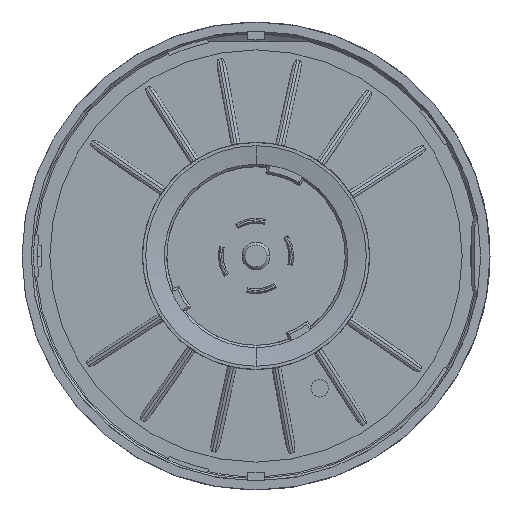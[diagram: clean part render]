
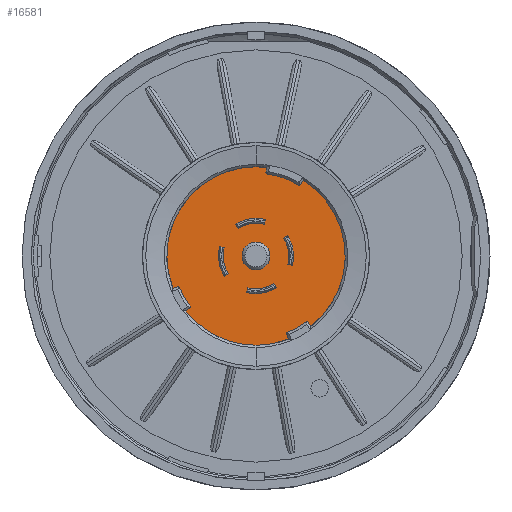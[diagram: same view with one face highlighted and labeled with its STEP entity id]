
A CAD part, top view. The second image highlights one B-rep face of the part: STEP entity #16581.
In plain terms, the highlighted planar face has unit normal (0, 0, 1).
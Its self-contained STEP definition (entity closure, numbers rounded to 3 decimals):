
#3396=CARTESIAN_POINT('',(0.,0.,-7.85));
#3397=DIRECTION('',(0.,0.,-1.));
#3398=DIRECTION('',(0.53,0.848,0.));
#3399=AXIS2_PLACEMENT_3D('',#3396,#3397,#3398);
#3401=CARTESIAN_POINT('',(0.,0.,-7.85));
#3402=DIRECTION('',(0.,0.,-1.));
#3403=DIRECTION('',(0.,-1.,0.));
#3404=AXIS2_PLACEMENT_3D('',#3401,#3402,#3403);
#3406=CARTESIAN_POINT('',(0.,0.,-7.85));
#3407=DIRECTION('',(0.,0.,-1.));
#3408=DIRECTION('',(-0.53,-0.848,0.));
#3409=AXIS2_PLACEMENT_3D('',#3406,#3407,#3408);
#3411=CARTESIAN_POINT('',(0.,0.,-7.85));
#3412=DIRECTION('',(0.,0.,-1.));
#3413=DIRECTION('',(0.,1.,0.));
#3414=AXIS2_PLACEMENT_3D('',#3411,#3412,#3413);
#3416=DIRECTION('',(0.438,0.899,0.));
#3417=VECTOR('',#3416,1.1);
#3418=CARTESIAN_POINT('',(6.181,12.673,-7.85));
#3419=LINE('',#3418,#3417);
#3420=CARTESIAN_POINT('',(0.,0.,-7.85));
#3421=DIRECTION('',(0.,0.,1.));
#3422=DIRECTION('',(0.53,0.848,0.));
#3423=AXIS2_PLACEMENT_3D('',#3420,#3421,#3422);
#3425=DIRECTION('',(-0.53,-0.848,0.));
#3426=VECTOR('',#3425,1.1);
#3427=CARTESIAN_POINT('',(8.055,12.89,-7.85));
#3428=LINE('',#3427,#3426);
#3429=CARTESIAN_POINT('',(0.,0.,-7.85));
#3430=DIRECTION('',(0.,0.,-1.));
#3431=DIRECTION('',(-1.,0.,0.));
#3432=AXIS2_PLACEMENT_3D('',#3429,#3430,#3431);
#3434=CARTESIAN_POINT('',(0.,0.,-7.85));
#3435=DIRECTION('',(0.,0.,-1.));
#3436=DIRECTION('',(1.,0.,0.));
#3437=AXIS2_PLACEMENT_3D('',#3434,#3435,#3436);
#3439=DIRECTION('',(-0.54,0.842,0.));
#3440=VECTOR('',#3439,0.8);
#3441=CARTESIAN_POINT('',(3.458,-5.386,-7.85));
#3442=LINE('',#3441,#3440);
#3443=CARTESIAN_POINT('',(0.,0.,-7.85));
#3444=DIRECTION('',(0.,0.,-1.));
#3445=DIRECTION('',(0.54,-0.842,0.));
#3446=AXIS2_PLACEMENT_3D('',#3443,#3444,#3445);
#3448=DIRECTION('',(-0.25,-0.968,0.));
#3449=VECTOR('',#3448,0.8);
#3450=CARTESIAN_POINT('',(-1.402,-5.422,-7.85));
#3451=LINE('',#3450,#3449);
#3452=CARTESIAN_POINT('',(0.,0.,-7.85));
#3453=DIRECTION('',(0.,0.,1.));
#3454=DIRECTION('',(-0.25,-0.968,0.));
#3455=AXIS2_PLACEMENT_3D('',#3452,#3453,#3454);
#3457=DIRECTION('',(-0.842,-0.54,0.));
#3458=VECTOR('',#3457,0.8);
#3459=CARTESIAN_POINT('',(5.386,3.458,-7.85));
#3460=LINE('',#3459,#3458);
#3461=CARTESIAN_POINT('',(0.,0.,-7.85));
#3462=DIRECTION('',(0.,0.,-1.));
#3463=DIRECTION('',(0.842,0.54,0.));
#3464=AXIS2_PLACEMENT_3D('',#3461,#3462,#3463);
#3466=DIRECTION('',(0.968,-0.25,0.));
#3467=VECTOR('',#3466,0.8);
#3468=CARTESIAN_POINT('',(5.422,-1.402,-7.85));
#3469=LINE('',#3468,#3467);
#3470=CARTESIAN_POINT('',(0.,0.,-7.85));
#3471=DIRECTION('',(0.,0.,1.));
#3472=DIRECTION('',(0.968,-0.25,0.));
#3473=AXIS2_PLACEMENT_3D('',#3470,#3471,#3472);
#3475=DIRECTION('',(0.54,-0.842,0.));
#3476=VECTOR('',#3475,0.8);
#3477=CARTESIAN_POINT('',(-3.458,5.386,-7.85));
#3478=LINE('',#3477,#3476);
#3479=CARTESIAN_POINT('',(0.,0.,-7.85));
#3480=DIRECTION('',(0.,0.,-1.));
#3481=DIRECTION('',(-0.54,0.842,0.));
#3482=AXIS2_PLACEMENT_3D('',#3479,#3480,#3481);
#3484=DIRECTION('',(0.25,0.968,0.));
#3485=VECTOR('',#3484,0.8);
#3486=CARTESIAN_POINT('',(1.402,5.422,-7.85));
#3487=LINE('',#3486,#3485);
#3488=CARTESIAN_POINT('',(0.,0.,-7.85));
#3489=DIRECTION('',(0.,0.,1.));
#3490=DIRECTION('',(0.25,0.968,0.));
#3491=AXIS2_PLACEMENT_3D('',#3488,#3489,#3490);
#3493=DIRECTION('',(0.842,0.54,0.));
#3494=VECTOR('',#3493,0.8);
#3495=CARTESIAN_POINT('',(-5.386,-3.458,-7.85));
#3496=LINE('',#3495,#3494);
#3497=CARTESIAN_POINT('',(0.,0.,-7.85));
#3498=DIRECTION('',(0.,0.,-1.));
#3499=DIRECTION('',(-0.842,-0.54,0.));
#3500=AXIS2_PLACEMENT_3D('',#3497,#3498,#3499);
#3502=DIRECTION('',(-0.968,0.25,0.));
#3503=VECTOR('',#3502,0.8);
#3504=CARTESIAN_POINT('',(-5.422,1.402,-7.85));
#3505=LINE('',#3504,#3503);
#3506=CARTESIAN_POINT('',(0.,0.,-7.85));
#3507=DIRECTION('',(0.,0.,1.));
#3508=DIRECTION('',(-0.968,0.25,0.));
#3509=AXIS2_PLACEMENT_3D('',#3506,#3507,#3508);
#7752=CARTESIAN_POINT('',(0.,15.2,-7.85));
#7753=CARTESIAN_POINT('',(6.663,13.662,-7.85));
#7754=VERTEX_POINT('',#7752);
#7755=VERTEX_POINT('',#7753);
#7838=CARTESIAN_POINT('',(8.055,12.89,-7.85));
#7839=VERTEX_POINT('',#7838);
#7846=CARTESIAN_POINT('',(7.472,11.957,-7.85));
#7847=VERTEX_POINT('',#7846);
#7848=CARTESIAN_POINT('',(6.181,12.673,-7.85));
#7849=VERTEX_POINT('',#7848);
#7850=CARTESIAN_POINT('',(-2.375,0.,-7.85));
#7851=CARTESIAN_POINT('',(2.375,0.,-7.85));
#7852=VERTEX_POINT('',#7850);
#7853=VERTEX_POINT('',#7851);
#8021=CARTESIAN_POINT('',(0.,-15.2,-7.85));
#8022=VERTEX_POINT('',#8021);
#8023=CARTESIAN_POINT('',(-8.055,-12.89,-7.85));
#8024=VERTEX_POINT('',#8023);
#8165=CARTESIAN_POINT('',(3.458,-5.386,-7.85));
#8166=CARTESIAN_POINT('',(3.025,-4.712,-7.85));
#8167=VERTEX_POINT('',#8165);
#8168=VERTEX_POINT('',#8166);
#8169=CARTESIAN_POINT('',(-1.402,-5.422,-7.85));
#8170=VERTEX_POINT('',#8169);
#8171=CARTESIAN_POINT('',(-1.602,-6.196,-7.85));
#8172=VERTEX_POINT('',#8171);
#8173=CARTESIAN_POINT('',(5.386,3.458,-7.85));
#8174=CARTESIAN_POINT('',(4.712,3.025,-7.85));
#8175=VERTEX_POINT('',#8173);
#8176=VERTEX_POINT('',#8174);
#8177=CARTESIAN_POINT('',(5.422,-1.402,-7.85));
#8178=VERTEX_POINT('',#8177);
#8179=CARTESIAN_POINT('',(6.196,-1.602,-7.85));
#8180=VERTEX_POINT('',#8179);
#8181=CARTESIAN_POINT('',(-3.458,5.386,-7.85));
#8182=CARTESIAN_POINT('',(-3.025,4.712,-7.85));
#8183=VERTEX_POINT('',#8181);
#8184=VERTEX_POINT('',#8182);
#8185=CARTESIAN_POINT('',(1.402,5.422,-7.85));
#8186=VERTEX_POINT('',#8185);
#8187=CARTESIAN_POINT('',(1.602,6.196,-7.85));
#8188=VERTEX_POINT('',#8187);
#8189=CARTESIAN_POINT('',(-5.386,-3.458,-7.85));
#8190=CARTESIAN_POINT('',(-4.712,-3.025,-7.85));
#8191=VERTEX_POINT('',#8189);
#8192=VERTEX_POINT('',#8190);
#8193=CARTESIAN_POINT('',(-5.422,1.402,-7.85));
#8194=VERTEX_POINT('',#8193);
#8195=CARTESIAN_POINT('',(-6.196,1.602,-7.85));
#8196=VERTEX_POINT('',#8195);
#16519=CARTESIAN_POINT('',(0.,0.,-7.85));
#16520=DIRECTION('',(0.,0.,1.));
#16521=DIRECTION('',(0.,1.,0.));
#16522=AXIS2_PLACEMENT_3D('',#16519,#16520,#16521);
#16523=PLANE('',#16522);
#16524=ORIENTED_EDGE('',*,*,#15953,.T.);
#16525=ORIENTED_EDGE('',*,*,#15951,.T.);
#16526=ORIENTED_EDGE('',*,*,#15949,.T.);
#16527=ORIENTED_EDGE('',*,*,#15947,.T.);
#16529=ORIENTED_EDGE('',*,*,#16528,.F.);
#16531=ORIENTED_EDGE('',*,*,#16530,.F.);
#16532=ORIENTED_EDGE('',*,*,#16512,.F.);
#16533=EDGE_LOOP('',(#16524,#16525,#16526,#16527,#16529,#16531,#16532));
#16534=FACE_OUTER_BOUND('',#16533,.F.);
#16536=ORIENTED_EDGE('',*,*,#16535,.F.);
#16538=ORIENTED_EDGE('',*,*,#16537,.F.);
#16539=EDGE_LOOP('',(#16536,#16538));
#16540=FACE_BOUND('',#16539,.F.);
#16542=ORIENTED_EDGE('',*,*,#16541,.T.);
#16544=ORIENTED_EDGE('',*,*,#16543,.T.);
#16546=ORIENTED_EDGE('',*,*,#16545,.T.);
#16548=ORIENTED_EDGE('',*,*,#16547,.T.);
#16549=EDGE_LOOP('',(#16542,#16544,#16546,#16548));
#16550=FACE_BOUND('',#16549,.F.);
#16552=ORIENTED_EDGE('',*,*,#16551,.T.);
#16554=ORIENTED_EDGE('',*,*,#16553,.T.);
#16556=ORIENTED_EDGE('',*,*,#16555,.T.);
#16558=ORIENTED_EDGE('',*,*,#16557,.T.);
#16559=EDGE_LOOP('',(#16552,#16554,#16556,#16558));
#16560=FACE_BOUND('',#16559,.F.);
#16562=ORIENTED_EDGE('',*,*,#16561,.T.);
#16564=ORIENTED_EDGE('',*,*,#16563,.T.);
#16566=ORIENTED_EDGE('',*,*,#16565,.T.);
#16568=ORIENTED_EDGE('',*,*,#16567,.T.);
#16569=EDGE_LOOP('',(#16562,#16564,#16566,#16568));
#16570=FACE_BOUND('',#16569,.F.);
#16572=ORIENTED_EDGE('',*,*,#16571,.T.);
#16574=ORIENTED_EDGE('',*,*,#16573,.T.);
#16576=ORIENTED_EDGE('',*,*,#16575,.T.);
#16578=ORIENTED_EDGE('',*,*,#16577,.T.);
#16579=EDGE_LOOP('',(#16572,#16574,#16576,#16578));
#16580=FACE_BOUND('',#16579,.F.);
#3400=CIRCLE('',#3399,15.2);
#3405=CIRCLE('',#3404,15.2);
#3410=CIRCLE('',#3409,15.2);
#3415=CIRCLE('',#3414,15.2);
#3424=CIRCLE('',#3423,14.1);
#3433=CIRCLE('',#3432,2.375);
#3438=CIRCLE('',#3437,2.375);
#3447=CIRCLE('',#3446,5.6);
#3456=CIRCLE('',#3455,6.4);
#3465=CIRCLE('',#3464,5.6);
#3474=CIRCLE('',#3473,6.4);
#3483=CIRCLE('',#3482,5.6);
#3492=CIRCLE('',#3491,6.4);
#3501=CIRCLE('',#3500,5.6);
#3510=CIRCLE('',#3509,6.4);
#15947=EDGE_CURVE('',#7754,#7755,#3415,.T.);
#15949=EDGE_CURVE('',#8024,#7754,#3410,.T.);
#15951=EDGE_CURVE('',#8022,#8024,#3405,.T.);
#15953=EDGE_CURVE('',#7839,#8022,#3400,.T.);
#16512=EDGE_CURVE('',#7839,#7847,#3428,.T.);
#16528=EDGE_CURVE('',#7849,#7755,#3419,.T.);
#16530=EDGE_CURVE('',#7847,#7849,#3424,.T.);
#16535=EDGE_CURVE('',#7852,#7853,#3433,.T.);
#16537=EDGE_CURVE('',#7853,#7852,#3438,.T.);
#16541=EDGE_CURVE('',#8167,#8168,#3442,.T.);
#16543=EDGE_CURVE('',#8168,#8170,#3447,.T.);
#16545=EDGE_CURVE('',#8170,#8172,#3451,.T.);
#16547=EDGE_CURVE('',#8172,#8167,#3456,.T.);
#16551=EDGE_CURVE('',#8175,#8176,#3460,.T.);
#16553=EDGE_CURVE('',#8176,#8178,#3465,.T.);
#16555=EDGE_CURVE('',#8178,#8180,#3469,.T.);
#16557=EDGE_CURVE('',#8180,#8175,#3474,.T.);
#16561=EDGE_CURVE('',#8183,#8184,#3478,.T.);
#16563=EDGE_CURVE('',#8184,#8186,#3483,.T.);
#16565=EDGE_CURVE('',#8186,#8188,#3487,.T.);
#16567=EDGE_CURVE('',#8188,#8183,#3492,.T.);
#16571=EDGE_CURVE('',#8191,#8192,#3496,.T.);
#16573=EDGE_CURVE('',#8192,#8194,#3501,.T.);
#16575=EDGE_CURVE('',#8194,#8196,#3505,.T.);
#16577=EDGE_CURVE('',#8196,#8191,#3510,.T.);
#16581=ADVANCED_FACE('',(#16534,#16540,#16550,#16560,#16570,#16580),#16523,.T.);
